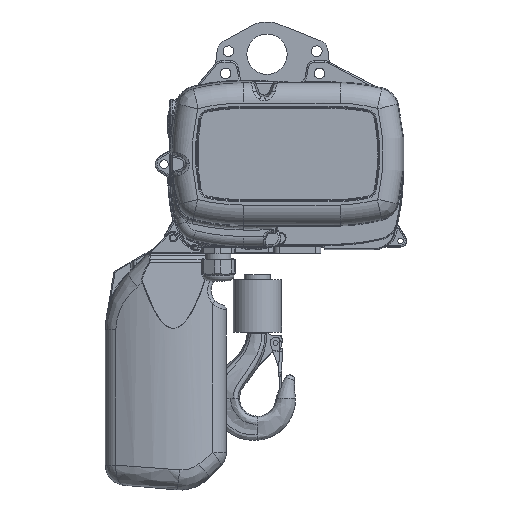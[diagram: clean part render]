
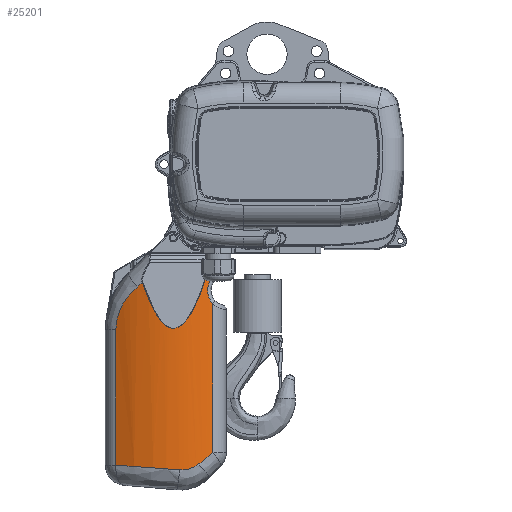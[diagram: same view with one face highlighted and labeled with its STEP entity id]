
A CAD part, front view. The second image highlights one B-rep face of the part: STEP entity #25201.
In plain terms, the highlighted cylindrical face has radius 120 mm (diameter 240 mm), a partial arc.
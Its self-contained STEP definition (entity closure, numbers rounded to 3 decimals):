
#618=B_SPLINE_CURVE_WITH_KNOTS('',3,(#36852,#36853,#36854,#36855,#36856,
#36857,#36858),.UNSPECIFIED.,.F.,.F.,(4,1,1,1,4),(-2.876,-2.054,
-1.643,-0.822,0.),.UNSPECIFIED.);
#639=B_SPLINE_CURVE_WITH_KNOTS('',3,(#37577,#37578,#37579,#37580,#37581,
#37582),.UNSPECIFIED.,.F.,.F.,(4,1,1,4),(0.,0.129,0.215,
0.302),.UNSPECIFIED.);
#643=B_SPLINE_CURVE_WITH_KNOTS('',3,(#37711,#37712,#37713,#37714,#37715,
#37716,#37717,#37718,#37719,#37720,#37721,#37722,#37723,#37724,#37725,#37726,
#37727,#37728,#37729),.UNSPECIFIED.,.F.,.F.,(4,3,3,3,3,3,4),(0.,0.681,
1.361,2.382,2.722,4.084,4.764),
 .UNSPECIFIED.);
#644=B_SPLINE_CURVE_WITH_KNOTS('',3,(#37735,#37736,#37737,#37738,#37739,
#37740,#37741),.UNSPECIFIED.,.F.,.F.,(4,1,1,1,4),(0.,0.5,
1.001,1.251,1.751),.UNSPECIFIED.);
#1730=ELLIPSE('',#26825,1354.074,120.);
#1732=ELLIPSE('',#26842,156.205,120.);
#1733=ELLIPSE('',#26844,120.319,120.);
#1734=ELLIPSE('',#26845,156.205,120.);
#2084=LINE('',#36916,#3150);
#2114=LINE('',#37731,#3180);
#2115=LINE('',#37744,#3181);
#3150=VECTOR('',#29759,16.121);
#3180=VECTOR('',#29967,134.23);
#3181=VECTOR('',#29972,147.514);
#4777=FACE_OUTER_BOUND('',#6331,.T.);
#6331=EDGE_LOOP('',(#15984,#15985,#15986,#15987,#15988,#15989,#15990,#15991,
#15992,#15993,#15994));
#9492=VERTEX_POINT('',#36806);
#9493=VERTEX_POINT('',#36850);
#9497=VERTEX_POINT('',#36911);
#9545=VERTEX_POINT('',#37504);
#9547=VERTEX_POINT('',#37549);
#9553=VERTEX_POINT('',#37706);
#9554=VERTEX_POINT('',#37710);
#9555=VERTEX_POINT('',#37730);
#9556=VERTEX_POINT('',#37732);
#9557=VERTEX_POINT('',#37734);
#9558=VERTEX_POINT('',#37742);
#11873=EDGE_CURVE('',#9493,#9492,#618,.T.);
#11879=EDGE_CURVE('',#9492,#9497,#2084,.T.);
#11968=EDGE_CURVE('',#9547,#9545,#1730,.T.);
#11969=EDGE_CURVE('',#9497,#9547,#639,.T.);
#11986=EDGE_CURVE('',#9545,#9553,#1732,.T.);
#11987=EDGE_CURVE('',#9553,#9554,#643,.T.);
#11988=EDGE_CURVE('',#9554,#9555,#2114,.T.);
#11989=EDGE_CURVE('',#9555,#9556,#1733,.T.);
#11990=EDGE_CURVE('',#9556,#9557,#644,.T.);
#11991=EDGE_CURVE('',#9557,#9558,#1734,.T.);
#11992=EDGE_CURVE('',#9558,#9493,#2115,.T.);
#15984=ORIENTED_EDGE('',*,*,#11873,.T.);
#15985=ORIENTED_EDGE('',*,*,#11879,.T.);
#15986=ORIENTED_EDGE('',*,*,#11969,.T.);
#15987=ORIENTED_EDGE('',*,*,#11968,.T.);
#15988=ORIENTED_EDGE('',*,*,#11986,.T.);
#15989=ORIENTED_EDGE('',*,*,#11987,.T.);
#15990=ORIENTED_EDGE('',*,*,#11988,.T.);
#15991=ORIENTED_EDGE('',*,*,#11989,.T.);
#15992=ORIENTED_EDGE('',*,*,#11990,.T.);
#15993=ORIENTED_EDGE('',*,*,#11991,.T.);
#15994=ORIENTED_EDGE('',*,*,#11992,.T.);
#23226=CYLINDRICAL_SURFACE('',#26843,120.);
#25201=ADVANCED_FACE('',(#4777),#23226,.T.);
#26825=AXIS2_PLACEMENT_3D('',#37552,#29924,#29925);
#26842=AXIS2_PLACEMENT_3D('',#37708,#29963,#29964);
#26843=AXIS2_PLACEMENT_3D('',#37709,#29965,#29966);
#26844=AXIS2_PLACEMENT_3D('',#37733,#29968,#29969);
#26845=AXIS2_PLACEMENT_3D('',#37743,#29970,#29971);
#29759=DIRECTION('',(0.,0.,1.));
#29924=DIRECTION('center_axis',(0.,-0.996,
-0.089));
#29925=DIRECTION('ref_axis',(0.,0.089,-0.996));
#29963=DIRECTION('center_axis',(-0.64,0.,
-0.768));
#29964=DIRECTION('ref_axis',(0.768,0.,-0.64));
#29965=DIRECTION('center_axis',(0.,0.,
-1.));
#29966=DIRECTION('ref_axis',(-0.438,0.899,0.));
#29967=DIRECTION('',(0.,0.,-1.));
#29968=DIRECTION('center_axis',(-0.073,0.,
0.997));
#29969=DIRECTION('ref_axis',(0.997,0.,0.073));
#29970=DIRECTION('center_axis',(0.64,0.,
0.768));
#29971=DIRECTION('ref_axis',(-0.768,0.,0.64));
#29972=DIRECTION('',(0.,0.,1.));
#36806=CARTESIAN_POINT('',(64.8,68.986,-251.109));
#36850=CARTESIAN_POINT('',(64.8,68.986,-277.28));
#36852=CARTESIAN_POINT('Ctrl Pts',(64.8,68.986,-277.28));
#36853=CARTESIAN_POINT('Ctrl Pts',(66.624,69.613,-275.26));
#36854=CARTESIAN_POINT('Ctrl Pts',(68.751,70.273,-271.645));
#36855=CARTESIAN_POINT('Ctrl Pts',(70.218,70.705,-264.914));
#36856=CARTESIAN_POINT('Ctrl Pts',(69.468,70.492,-257.951));
#36857=CARTESIAN_POINT('Ctrl Pts',(66.624,69.613,-253.13));
#36858=CARTESIAN_POINT('Ctrl Pts',(64.8,68.986,-251.109));
#36911=CARTESIAN_POINT('',(64.8,68.986,-234.988));
#36916=CARTESIAN_POINT('',(64.8,68.986,-492.195));
#37504=CARTESIAN_POINT('',(134.6,71.48,-256.6));
#37549=CARTESIAN_POINT('',(67.01,69.721,-236.831));
#37552=CARTESIAN_POINT('Origin',(103.8,-44.5,1046.964));
#37577=CARTESIAN_POINT('Ctrl Pts',(64.8,68.986,-234.988));
#37578=CARTESIAN_POINT('Ctrl Pts',(65.182,69.117,-235.154));
#37579=CARTESIAN_POINT('Ctrl Pts',(65.811,69.33,-235.474));
#37580=CARTESIAN_POINT('Ctrl Pts',(66.595,69.587,-236.075));
#37581=CARTESIAN_POINT('Ctrl Pts',(66.933,69.697,-236.555));
#37582=CARTESIAN_POINT('Ctrl Pts',(67.01,69.721,-236.831));
#37706=CARTESIAN_POINT('',(139.712,70.,-260.86));
#37708=CARTESIAN_POINT('Origin',(103.8,-44.5,-230.933));
#37709=CARTESIAN_POINT('Origin',(103.8,-44.5,-492.195));
#37710=CARTESIAN_POINT('',(160.8,61.098,-303.286));
#37711=CARTESIAN_POINT('Ctrl Pts',(139.712,70.,-260.86));
#37712=CARTESIAN_POINT('Ctrl Pts',(141.591,69.411,-262.426));
#37713=CARTESIAN_POINT('Ctrl Pts',(143.371,68.802,-264.084));
#37714=CARTESIAN_POINT('Ctrl Pts',(145.032,68.194,-265.815));
#37715=CARTESIAN_POINT('Ctrl Pts',(146.694,67.586,-267.546));
#37716=CARTESIAN_POINT('Ctrl Pts',(148.238,66.979,-269.35));
#37717=CARTESIAN_POINT('Ctrl Pts',(149.661,66.391,-271.227));
#37718=CARTESIAN_POINT('Ctrl Pts',(151.796,65.508,-274.041));
#37719=CARTESIAN_POINT('Ctrl Pts',(153.657,64.666,-277.018));
#37720=CARTESIAN_POINT('Ctrl Pts',(155.212,63.929,-280.109));
#37721=CARTESIAN_POINT('Ctrl Pts',(155.73,63.683,-281.139));
#37722=CARTESIAN_POINT('Ctrl Pts',(156.214,63.449,-282.182));
#37723=CARTESIAN_POINT('Ctrl Pts',(156.663,63.229,-283.239));
#37724=CARTESIAN_POINT('Ctrl Pts',(158.462,62.346,-287.469));
#37725=CARTESIAN_POINT('Ctrl Pts',(159.712,61.681,-291.934));
#37726=CARTESIAN_POINT('Ctrl Pts',(160.334,61.348,-296.467));
#37727=CARTESIAN_POINT('Ctrl Pts',(160.646,61.182,-298.734));
#37728=CARTESIAN_POINT('Ctrl Pts',(160.8,61.098,-301.017));
#37729=CARTESIAN_POINT('Ctrl Pts',(160.8,61.098,-303.286));
#37730=CARTESIAN_POINT('',(160.8,61.098,-437.516));
#37731=CARTESIAN_POINT('',(160.8,61.098,-492.195));
#37732=CARTESIAN_POINT('',(97.71,75.345,-442.116));
#37733=CARTESIAN_POINT('Origin',(103.8,-44.5,-441.672));
#37734=CARTESIAN_POINT('',(78.648,72.834,-436.334));
#37735=CARTESIAN_POINT('Ctrl Pts',(97.71,75.345,-442.116));
#37736=CARTESIAN_POINT('Ctrl Pts',(95.718,75.244,-442.261));
#37737=CARTESIAN_POINT('Ctrl Pts',(91.681,74.937,-442.132));
#37738=CARTESIAN_POINT('Ctrl Pts',(86.878,74.326,-440.947));
#37739=CARTESIAN_POINT('Ctrl Pts',(82.438,73.606,-439.05));
#37740=CARTESIAN_POINT('Ctrl Pts',(80.047,73.134,-437.501));
#37741=CARTESIAN_POINT('Ctrl Pts',(78.648,72.834,-436.334));
#37742=CARTESIAN_POINT('',(64.8,68.986,-424.795));
#37743=CARTESIAN_POINT('Origin',(103.8,-44.5,-457.295));
#37744=CARTESIAN_POINT('',(64.8,68.986,-492.195));
